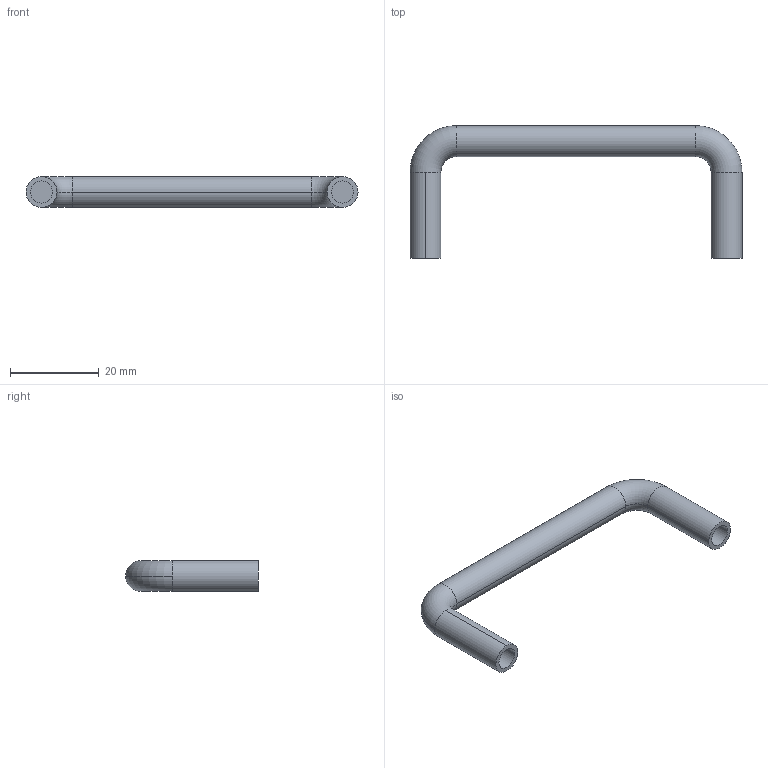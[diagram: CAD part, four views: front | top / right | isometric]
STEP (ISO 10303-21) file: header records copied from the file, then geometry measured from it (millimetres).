
FILE_DESCRIPTION (( 'STEP AP214' ), '1' );
FILE_NAME ('A84 KA-1251-4.STEP', '2012-02-22T01:57:31', ( '' ), ( '' ), 'SwSTEP 2.0', 'SolidWorks 2012', '' );
FILE_SCHEMA (( 'AUTOMOTIVE_DESIGN' ));
Length unit declared in the file: millimetre
Products named in the file (1): A84 KA-1251-4
Bounding box: 75 x 30 x 7 mm (x, y, z)
Volume: 3993.4 mm3; surface area: 2951.3 mm2
Topology: 1 solids, 1 shells, 18 faces, 36 edges, 22 vertices
Faces by surface type: cylinder 10, torus 4, plane 4
Entity records: 512 total; most frequent: DIRECTION 100, CARTESIAN_POINT 77, ORIENTED_EDGE 72, AXIS2_PLACEMENT_3D 45, EDGE_CURVE 36, CIRCLE 26, VERTEX_POINT 22, EDGE_LOOP 20
